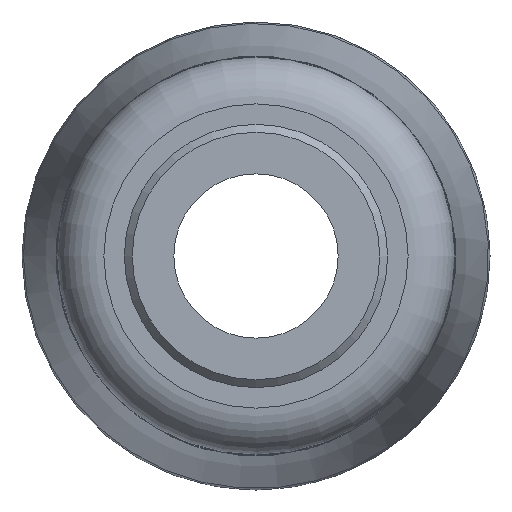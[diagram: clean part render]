
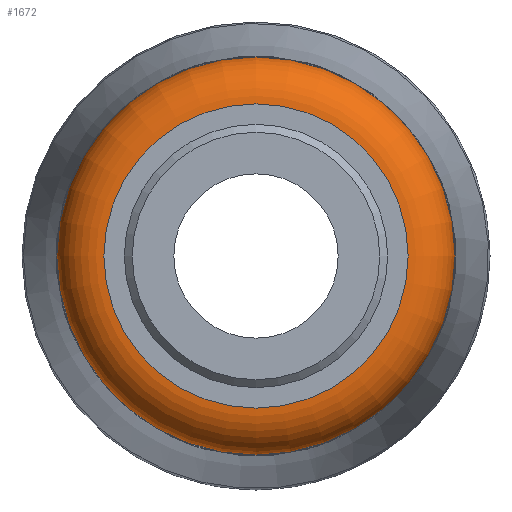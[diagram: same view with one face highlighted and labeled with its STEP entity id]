
A CAD part, left-side view. The second image highlights one B-rep face of the part: STEP entity #1672.
In plain terms, the highlighted toroidal (fillet/blend) face has major radius 15.275 mm and minor radius 4.7 mm.
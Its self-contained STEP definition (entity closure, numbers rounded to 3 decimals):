
#16=TOROIDAL_SURFACE('',#1828,15.275,4.7);
#353=FACE_BOUND('',#498,.T.);
#388=FACE_OUTER_BOUND('',#497,.T.);
#497=EDGE_LOOP('',(#1219));
#498=EDGE_LOOP('',(#1220));
#613=CIRCLE('',#1807,19.975);
#626=CIRCLE('',#1829,15.275);
#725=VERTEX_POINT('',#2858);
#735=VERTEX_POINT('',#2915);
#896=EDGE_CURVE('',#725,#725,#613,.T.);
#912=EDGE_CURVE('',#735,#735,#626,.T.);
#1219=ORIENTED_EDGE('',*,*,#912,.T.);
#1220=ORIENTED_EDGE('',*,*,#896,.T.);
#1672=ADVANCED_FACE('',(#388,#353),#16,.T.);
#1807=AXIS2_PLACEMENT_3D('',#2859,#2076,#2077);
#1828=AXIS2_PLACEMENT_3D('',#2914,#2119,#2120);
#1829=AXIS2_PLACEMENT_3D('',#2916,#2121,#2122);
#2076=DIRECTION('center_axis',(-1.,0.,0.));
#2077=DIRECTION('ref_axis',(0.,-1.,0.));
#2119=DIRECTION('center_axis',(1.,0.,0.));
#2120=DIRECTION('ref_axis',(0.,0.,-1.));
#2121=DIRECTION('center_axis',(1.,0.,0.));
#2122=DIRECTION('ref_axis',(0.,-1.,0.));
#2858=CARTESIAN_POINT('',(21.7,19.975,0.));
#2859=CARTESIAN_POINT('Origin',(21.7,0.,0.));
#2914=CARTESIAN_POINT('Origin',(21.7,0.,0.));
#2915=CARTESIAN_POINT('',(17.,15.275,0.));
#2916=CARTESIAN_POINT('Origin',(17.,0.,0.));
